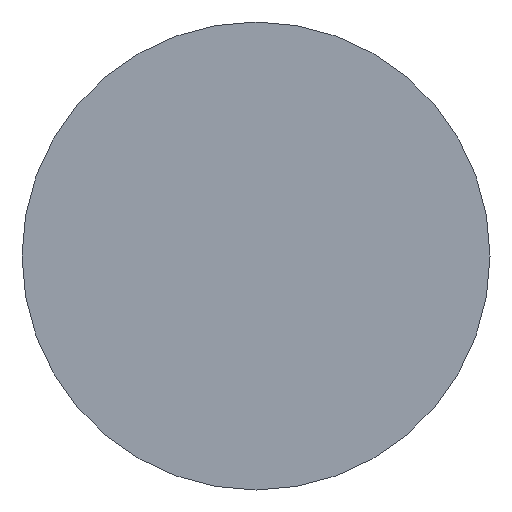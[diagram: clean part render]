
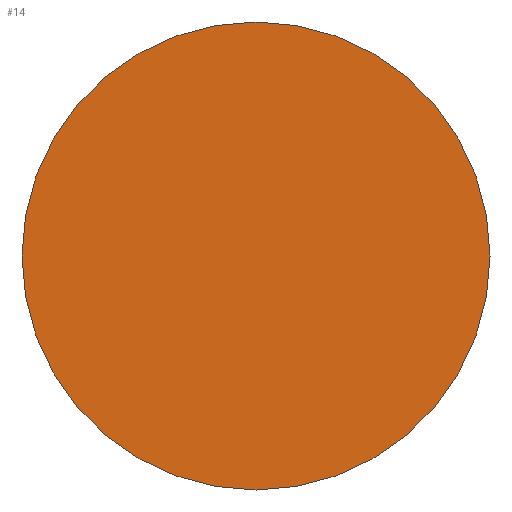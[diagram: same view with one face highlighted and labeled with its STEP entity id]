
A CAD part, left-side view. The second image highlights one B-rep face of the part: STEP entity #14.
In plain terms, the highlighted planar face has unit normal (-1, 0, 0).
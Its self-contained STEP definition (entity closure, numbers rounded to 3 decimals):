
#14 = ADVANCED_FACE ( 'NONE', ( #46 ), #15, .T. ) ;
#15 = PLANE ( 'NONE',  #119 ) ;
#16 = CARTESIAN_POINT ( 'NONE',  ( 4.951, -54.5, 2.5 ) ) ;
#26 = AXIS2_PLACEMENT_3D ( 'NONE', #168, #93, #55 ) ;
#32 = CARTESIAN_POINT ( 'NONE',  ( 4.951, -54.5, 11. ) ) ;
#37 = EDGE_CURVE ( 'NONE', #64, #74, #109, .T. ) ;
#46 = FACE_OUTER_BOUND ( 'NONE', #165, .T. ) ;
#48 = CIRCLE ( 'NONE', #26, 8.5 ) ;
#55 = DIRECTION ( 'NONE',  ( 0., 0., 1. ) ) ;
#62 = DIRECTION ( 'NONE',  ( 0., 0., 1. ) ) ;
#64 = VERTEX_POINT ( 'NONE', #32 ) ;
#65 = ORIENTED_EDGE ( 'NONE', *, *, #127, .T. ) ;
#74 = VERTEX_POINT ( 'NONE', #137 ) ;
#77 = AXIS2_PLACEMENT_3D ( 'NONE', #162, #79, #175 ) ;
#79 = DIRECTION ( 'NONE',  ( -1., 0., 0. ) ) ;
#93 = DIRECTION ( 'NONE',  ( -1., 0., 0. ) ) ;
#99 = DIRECTION ( 'NONE',  ( -1., 0., 0. ) ) ;
#100 = ORIENTED_EDGE ( 'NONE', *, *, #37, .T. ) ;
#109 = CIRCLE ( 'NONE', #77, 8.5 ) ;
#119 = AXIS2_PLACEMENT_3D ( 'NONE', #16, #99, #62 ) ;
#127 = EDGE_CURVE ( 'NONE', #74, #64, #48, .T. ) ;
#137 = CARTESIAN_POINT ( 'NONE',  ( 4.951, -54.5, -6. ) ) ;
#162 = CARTESIAN_POINT ( 'NONE',  ( 4.951, -54.5, 2.5 ) ) ;
#165 = EDGE_LOOP ( 'NONE', ( #65, #100 ) ) ;
#168 = CARTESIAN_POINT ( 'NONE',  ( 4.951, -54.5, 2.5 ) ) ;
#175 = DIRECTION ( 'NONE',  ( 0., 0., 1. ) ) ;
